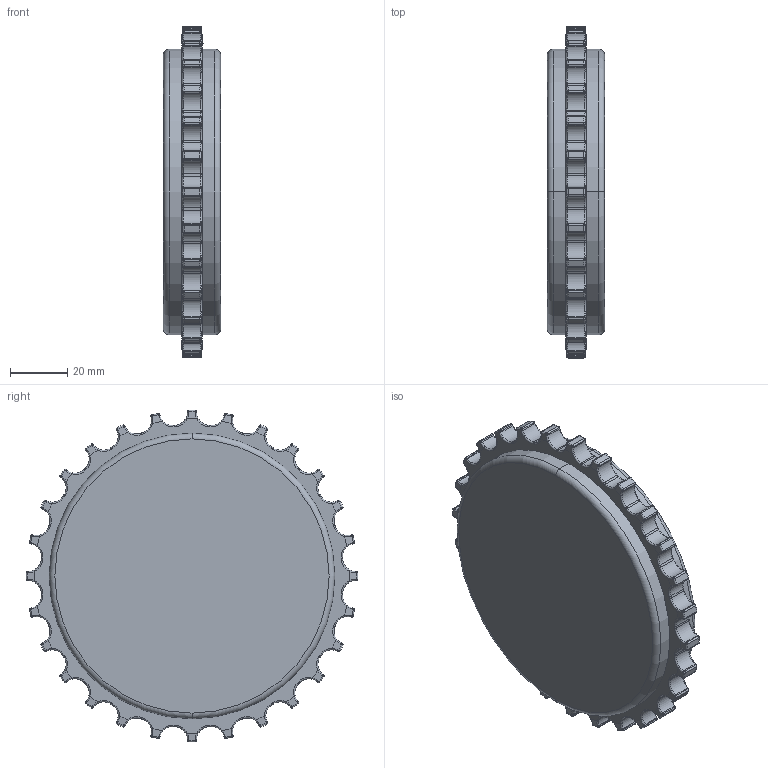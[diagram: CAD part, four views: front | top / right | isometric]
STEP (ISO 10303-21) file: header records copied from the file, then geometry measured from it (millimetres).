
FILE_DESCRIPTION((''),'2;1');
FILE_NAME('223MSNB2Z28BB','2009-10-02T',('mth'),(''),'PRO/ENGINEER BY PARAMETRIC TECHNOLOGY CORPORATION, 2008490','PRO/ENGINEER BY PARAMETRIC TECHNOLOGY CORPORATION, 2008490','');
FILE_SCHEMA(('AUTOMOTIVE_DESIGN { 1 0 10303 214 1 1 1 1 }'));
Length unit declared in the file: millimetre
Products named in the file (1): 223MSNB2Z28BB
Bounding box: 20 x 116.2 x 116.2 mm (x, y, z)
Volume: 167988.7 mm3; surface area: 25846.9 mm2
Topology: 1 solids, 1 shells, 854 faces, 1986 edges, 1135 vertices
Faces by surface type: torus 228, bspline 224, cylinder 172, sphere 112, plane 60, cone 58
Entity records: 31099 total; most frequent: CARTESIAN_POINT 13186, ORIENTED_EDGE 3968, DIRECTION 3654, EDGE_CURVE 1984, AXIS2_PLACEMENT_3D 1712, VERTEX_POINT 1135, CIRCLE 1082, EDGE_LOOP 857
